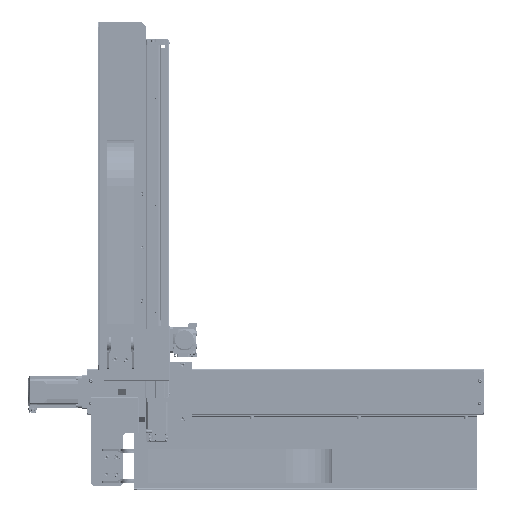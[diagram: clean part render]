
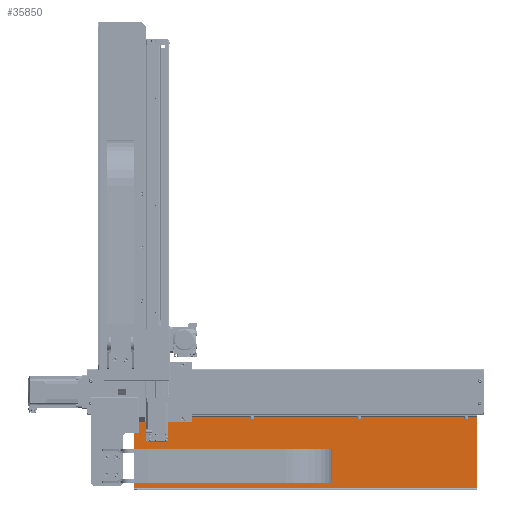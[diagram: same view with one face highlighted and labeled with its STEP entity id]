
A CAD part, top view. The second image highlights one B-rep face of the part: STEP entity #35850.
In plain terms, the highlighted planar face has unit normal (0, 0, 1).
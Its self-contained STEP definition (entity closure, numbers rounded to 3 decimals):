
#35725=CARTESIAN_POINT('Vertex',(198.74,-121.082,2.)) ;
#35728=CARTESIAN_POINT('Axis2P3D Location',(202.25,-123.,2.)) ;
#35732=CARTESIAN_POINT('Vertex',(205.76,-124.918,2.)) ;
#35748=CARTESIAN_POINT('Axis2P3D Location',(640.,-181.,2.)) ;
#35753=CARTESIAN_POINT('Line Origine',(640.,-113.,2.)) ;
#35757=CARTESIAN_POINT('Vertex',(640.,-179.,2.)) ;
#35759=CARTESIAN_POINT('Vertex',(640.,-47.,2.)) ;
#35762=CARTESIAN_POINT('Line Origine',(320.,-47.,2.)) ;
#35766=CARTESIAN_POINT('Vertex',(0.,-47.,2.)) ;
#35769=CARTESIAN_POINT('Line Origine',(0.,-113.,2.)) ;
#35773=CARTESIAN_POINT('Vertex',(0.,-179.,2.)) ;
#35776=CARTESIAN_POINT('Line Origine',(320.,-179.,2.)) ;
#35787=CARTESIAN_POINT('Axis2P3D Location',(202.25,-123.,2.)) ;
#35796=CARTESIAN_POINT('Axis2P3D Location',(222.25,-123.,2.)) ;
#35800=CARTESIAN_POINT('Vertex',(218.74,-121.082,2.)) ;
#35802=CARTESIAN_POINT('Vertex',(225.76,-124.918,2.)) ;
#35805=CARTESIAN_POINT('Axis2P3D Location',(222.25,-123.,2.)) ;
#35814=CARTESIAN_POINT('Axis2P3D Location',(202.25,-154.,2.)) ;
#35818=CARTESIAN_POINT('Vertex',(198.74,-152.082,2.)) ;
#35820=CARTESIAN_POINT('Vertex',(205.76,-155.918,2.)) ;
#35823=CARTESIAN_POINT('Axis2P3D Location',(202.25,-154.,2.)) ;
#35832=CARTESIAN_POINT('Axis2P3D Location',(222.25,-154.,2.)) ;
#35836=CARTESIAN_POINT('Vertex',(218.74,-152.082,2.)) ;
#35838=CARTESIAN_POINT('Vertex',(225.76,-155.918,2.)) ;
#35841=CARTESIAN_POINT('Axis2P3D Location',(222.25,-154.,2.)) ;
#35755=VECTOR('Line Direction',#35754,1.) ;
#35764=VECTOR('Line Direction',#35763,1.) ;
#35771=VECTOR('Line Direction',#35770,1.) ;
#35778=VECTOR('Line Direction',#35777,1.) ;
#35729=DIRECTION('Axis2P3D Direction',(0.,0.,-1.)) ;
#35749=DIRECTION('Axis2P3D Direction',(0.,0.,1.)) ;
#35750=DIRECTION('Axis2P3D XDirection',(0.,1.,0.)) ;
#35754=DIRECTION('Vector Direction',(0.,1.,0.)) ;
#35763=DIRECTION('Vector Direction',(-1.,0.,0.)) ;
#35770=DIRECTION('Vector Direction',(0.,1.,0.)) ;
#35777=DIRECTION('Vector Direction',(-1.,0.,0.)) ;
#35788=DIRECTION('Axis2P3D Direction',(0.,0.,1.)) ;
#35797=DIRECTION('Axis2P3D Direction',(0.,0.,1.)) ;
#35806=DIRECTION('Axis2P3D Direction',(0.,0.,1.)) ;
#35815=DIRECTION('Axis2P3D Direction',(0.,0.,1.)) ;
#35824=DIRECTION('Axis2P3D Direction',(0.,0.,1.)) ;
#35833=DIRECTION('Axis2P3D Direction',(0.,0.,1.)) ;
#35842=DIRECTION('Axis2P3D Direction',(0.,0.,1.)) ;
#35730=AXIS2_PLACEMENT_3D('Circle Axis2P3D',#35728,#35729,$) ;
#35751=AXIS2_PLACEMENT_3D('Plane Axis2P3D',#35748,#35749,#35750) ;
#35789=AXIS2_PLACEMENT_3D('Circle Axis2P3D',#35787,#35788,$) ;
#35798=AXIS2_PLACEMENT_3D('Circle Axis2P3D',#35796,#35797,$) ;
#35807=AXIS2_PLACEMENT_3D('Circle Axis2P3D',#35805,#35806,$) ;
#35816=AXIS2_PLACEMENT_3D('Circle Axis2P3D',#35814,#35815,$) ;
#35825=AXIS2_PLACEMENT_3D('Circle Axis2P3D',#35823,#35824,$) ;
#35834=AXIS2_PLACEMENT_3D('Circle Axis2P3D',#35832,#35833,$) ;
#35843=AXIS2_PLACEMENT_3D('Circle Axis2P3D',#35841,#35842,$) ;
#35756=LINE('Line',#35753,#35755) ;
#35765=LINE('Line',#35762,#35764) ;
#35772=LINE('Line',#35769,#35771) ;
#35779=LINE('Line',#35776,#35778) ;
#35731=CIRCLE('generated circle',#35730,4.) ;
#35790=CIRCLE('generated circle',#35789,4.) ;
#35799=CIRCLE('generated circle',#35798,4.) ;
#35808=CIRCLE('generated circle',#35807,4.) ;
#35817=CIRCLE('generated circle',#35816,4.) ;
#35826=CIRCLE('generated circle',#35825,4.) ;
#35835=CIRCLE('generated circle',#35834,4.) ;
#35844=CIRCLE('generated circle',#35843,4.) ;
#35752=PLANE('',#35751) ;
#35795=FACE_BOUND('',#35792,.T.) ;
#35813=FACE_BOUND('',#35810,.T.) ;
#35831=FACE_BOUND('',#35828,.T.) ;
#35849=FACE_BOUND('',#35846,.T.) ;
#35734=EDGE_CURVE('',#35726,#35733,#35731,.F.) ;
#35761=EDGE_CURVE('',#35758,#35760,#35756,.T.) ;
#35768=EDGE_CURVE('',#35767,#35760,#35765,.F.) ;
#35775=EDGE_CURVE('',#35774,#35767,#35772,.T.) ;
#35780=EDGE_CURVE('',#35774,#35758,#35779,.F.) ;
#35791=EDGE_CURVE('',#35733,#35726,#35790,.T.) ;
#35804=EDGE_CURVE('',#35801,#35803,#35799,.T.) ;
#35809=EDGE_CURVE('',#35803,#35801,#35808,.T.) ;
#35822=EDGE_CURVE('',#35819,#35821,#35817,.T.) ;
#35827=EDGE_CURVE('',#35821,#35819,#35826,.T.) ;
#35840=EDGE_CURVE('',#35837,#35839,#35835,.T.) ;
#35845=EDGE_CURVE('',#35839,#35837,#35844,.T.) ;
#35781=EDGE_LOOP('',(#35782,#35783,#35784,#35785)) ;
#35792=EDGE_LOOP('',(#35793,#35794)) ;
#35810=EDGE_LOOP('',(#35811,#35812)) ;
#35828=EDGE_LOOP('',(#35829,#35830)) ;
#35846=EDGE_LOOP('',(#35847,#35848)) ;
#35782=ORIENTED_EDGE('',*,*,#35761,.T.) ;
#35783=ORIENTED_EDGE('',*,*,#35768,.F.) ;
#35784=ORIENTED_EDGE('',*,*,#35775,.F.) ;
#35785=ORIENTED_EDGE('',*,*,#35780,.T.) ;
#35793=ORIENTED_EDGE('',*,*,#35791,.F.) ;
#35794=ORIENTED_EDGE('',*,*,#35734,.F.) ;
#35811=ORIENTED_EDGE('',*,*,#35804,.F.) ;
#35812=ORIENTED_EDGE('',*,*,#35809,.F.) ;
#35829=ORIENTED_EDGE('',*,*,#35822,.F.) ;
#35830=ORIENTED_EDGE('',*,*,#35827,.F.) ;
#35847=ORIENTED_EDGE('',*,*,#35840,.F.) ;
#35848=ORIENTED_EDGE('',*,*,#35845,.F.) ;
#35726=VERTEX_POINT('',#35725) ;
#35733=VERTEX_POINT('',#35732) ;
#35758=VERTEX_POINT('',#35757) ;
#35760=VERTEX_POINT('',#35759) ;
#35767=VERTEX_POINT('',#35766) ;
#35774=VERTEX_POINT('',#35773) ;
#35801=VERTEX_POINT('',#35800) ;
#35803=VERTEX_POINT('',#35802) ;
#35819=VERTEX_POINT('',#35818) ;
#35821=VERTEX_POINT('',#35820) ;
#35837=VERTEX_POINT('',#35836) ;
#35839=VERTEX_POINT('',#35838) ;
#35850=ADVANCED_FACE('\X2\FF8EFF9EFF83FF9EFF68FF70\X0\.19',(#35786,#35795,#35813,#35831,#35849),#35752,.T.) ;
#35786=FACE_OUTER_BOUND('',#35781,.T.) ;
